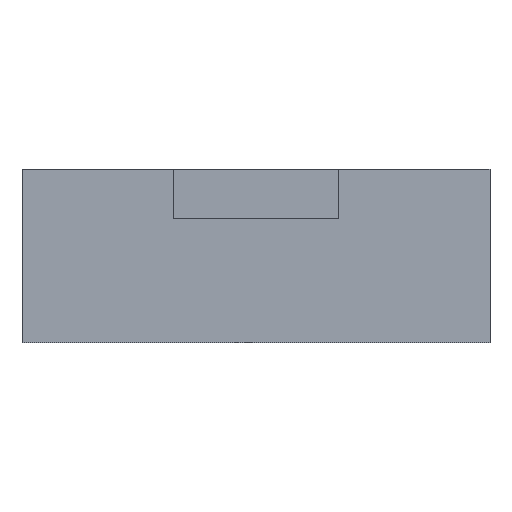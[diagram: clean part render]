
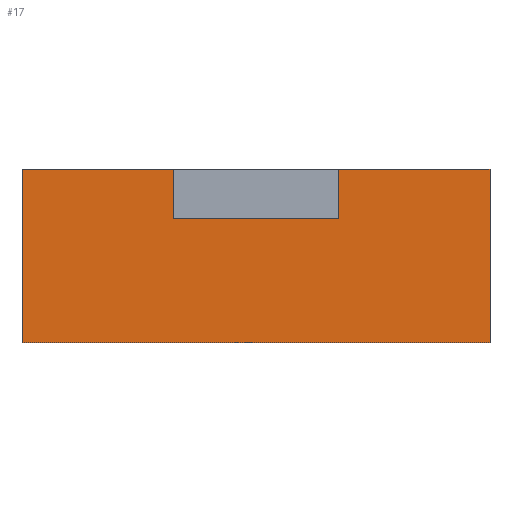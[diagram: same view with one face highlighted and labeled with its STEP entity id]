
A CAD part, left-side view. The second image highlights one B-rep face of the part: STEP entity #17.
In plain terms, the highlighted planar face has unit normal (-1, 0, 0).
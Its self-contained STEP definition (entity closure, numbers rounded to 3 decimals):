
#17 = ADVANCED_FACE('',(#18),#32,.F.);
#18 = FACE_BOUND('',#19,.F.);
#19 = EDGE_LOOP('',(#20,#55,#83,#111,#139,#162,#190,#218));
#20 = ORIENTED_EDGE('',*,*,#21,.F.);
#21 = EDGE_CURVE('',#22,#24,#26,.T.);
#22 = VERTEX_POINT('',#23);
#23 = CARTESIAN_POINT('',(-10.8,-44.5,9.55));
#24 = VERTEX_POINT('',#25);
#25 = CARTESIAN_POINT('',(-10.8,-39.,9.55));
#26 = SURFACE_CURVE('',#27,(#31,#43),.PCURVE_S1.);
#27 = LINE('',#28,#29);
#28 = CARTESIAN_POINT('',(-10.8,-44.5,9.55));
#29 = VECTOR('',#30,1.);
#30 = DIRECTION('',(0.,1.,0.));
#31 = PCURVE('',#32,#37);
#32 = PLANE('',#33);
#33 = AXIS2_PLACEMENT_3D('',#34,#35,#36);
#34 = CARTESIAN_POINT('',(-10.8,-44.5,3.26));
#35 = DIRECTION('',(1.,0.,0.));
#36 = DIRECTION('',(0.,0.,1.));
#37 = DEFINITIONAL_REPRESENTATION('',(#38),#42);
#38 = LINE('',#39,#40);
#39 = CARTESIAN_POINT('',(6.29,0.));
#40 = VECTOR('',#41,1.);
#41 = DIRECTION('',(0.,-1.));
#42 = ( GEOMETRIC_REPRESENTATION_CONTEXT(2) 
PARAMETRIC_REPRESENTATION_CONTEXT() REPRESENTATION_CONTEXT('2D SPACE',''
  ) );
#43 = PCURVE('',#44,#49);
#44 = PLANE('',#45);
#45 = AXIS2_PLACEMENT_3D('',#46,#47,#48);
#46 = CARTESIAN_POINT('',(-10.8,-44.5,9.55));
#47 = DIRECTION('',(0.,0.,1.));
#48 = DIRECTION('',(1.,0.,0.));
#49 = DEFINITIONAL_REPRESENTATION('',(#50),#54);
#50 = LINE('',#51,#52);
#51 = CARTESIAN_POINT('',(0.,0.));
#52 = VECTOR('',#53,1.);
#53 = DIRECTION('',(0.,1.));
#54 = ( GEOMETRIC_REPRESENTATION_CONTEXT(2) 
PARAMETRIC_REPRESENTATION_CONTEXT() REPRESENTATION_CONTEXT('2D SPACE',''
  ) );
#55 = ORIENTED_EDGE('',*,*,#56,.F.);
#56 = EDGE_CURVE('',#57,#22,#59,.T.);
#57 = VERTEX_POINT('',#58);
#58 = CARTESIAN_POINT('',(-10.8,-44.5,3.26));
#59 = SURFACE_CURVE('',#60,(#64,#71),.PCURVE_S1.);
#60 = LINE('',#61,#62);
#61 = CARTESIAN_POINT('',(-10.8,-44.5,3.26));
#62 = VECTOR('',#63,1.);
#63 = DIRECTION('',(0.,0.,1.));
#64 = PCURVE('',#32,#65);
#65 = DEFINITIONAL_REPRESENTATION('',(#66),#70);
#66 = LINE('',#67,#68);
#67 = CARTESIAN_POINT('',(0.,0.));
#68 = VECTOR('',#69,1.);
#69 = DIRECTION('',(1.,0.));
#70 = ( GEOMETRIC_REPRESENTATION_CONTEXT(2) 
PARAMETRIC_REPRESENTATION_CONTEXT() REPRESENTATION_CONTEXT('2D SPACE',''
  ) );
#71 = PCURVE('',#72,#77);
#72 = PLANE('',#73);
#73 = AXIS2_PLACEMENT_3D('',#74,#75,#76);
#74 = CARTESIAN_POINT('',(-10.8,-44.5,3.26));
#75 = DIRECTION('',(0.,1.,0.));
#76 = DIRECTION('',(0.,0.,1.));
#77 = DEFINITIONAL_REPRESENTATION('',(#78),#82);
#78 = LINE('',#79,#80);
#79 = CARTESIAN_POINT('',(0.,0.));
#80 = VECTOR('',#81,1.);
#81 = DIRECTION('',(1.,0.));
#82 = ( GEOMETRIC_REPRESENTATION_CONTEXT(2) 
PARAMETRIC_REPRESENTATION_CONTEXT() REPRESENTATION_CONTEXT('2D SPACE',''
  ) );
#83 = ORIENTED_EDGE('',*,*,#84,.T.);
#84 = EDGE_CURVE('',#57,#85,#87,.T.);
#85 = VERTEX_POINT('',#86);
#86 = CARTESIAN_POINT('',(-10.8,-27.5,3.26));
#87 = SURFACE_CURVE('',#88,(#92,#99),.PCURVE_S1.);
#88 = LINE('',#89,#90);
#89 = CARTESIAN_POINT('',(-10.8,-44.5,3.26));
#90 = VECTOR('',#91,1.);
#91 = DIRECTION('',(0.,1.,0.));
#92 = PCURVE('',#32,#93);
#93 = DEFINITIONAL_REPRESENTATION('',(#94),#98);
#94 = LINE('',#95,#96);
#95 = CARTESIAN_POINT('',(0.,0.));
#96 = VECTOR('',#97,1.);
#97 = DIRECTION('',(0.,-1.));
#98 = ( GEOMETRIC_REPRESENTATION_CONTEXT(2) 
PARAMETRIC_REPRESENTATION_CONTEXT() REPRESENTATION_CONTEXT('2D SPACE',''
  ) );
#99 = PCURVE('',#100,#105);
#100 = PLANE('',#101);
#101 = AXIS2_PLACEMENT_3D('',#102,#103,#104);
#102 = CARTESIAN_POINT('',(-10.8,-44.5,3.26));
#103 = DIRECTION('',(0.,0.,1.));
#104 = DIRECTION('',(1.,0.,0.));
#105 = DEFINITIONAL_REPRESENTATION('',(#106),#110);
#106 = LINE('',#107,#108);
#107 = CARTESIAN_POINT('',(0.,0.));
#108 = VECTOR('',#109,1.);
#109 = DIRECTION('',(0.,1.));
#110 = ( GEOMETRIC_REPRESENTATION_CONTEXT(2) 
PARAMETRIC_REPRESENTATION_CONTEXT() REPRESENTATION_CONTEXT('2D SPACE',''
  ) );
#111 = ORIENTED_EDGE('',*,*,#112,.T.);
#112 = EDGE_CURVE('',#85,#113,#115,.T.);
#113 = VERTEX_POINT('',#114);
#114 = CARTESIAN_POINT('',(-10.8,-27.5,9.55));
#115 = SURFACE_CURVE('',#116,(#120,#127),.PCURVE_S1.);
#116 = LINE('',#117,#118);
#117 = CARTESIAN_POINT('',(-10.8,-27.5,3.26));
#118 = VECTOR('',#119,1.);
#119 = DIRECTION('',(0.,0.,1.));
#120 = PCURVE('',#32,#121);
#121 = DEFINITIONAL_REPRESENTATION('',(#122),#126);
#122 = LINE('',#123,#124);
#123 = CARTESIAN_POINT('',(0.,-17.));
#124 = VECTOR('',#125,1.);
#125 = DIRECTION('',(1.,0.));
#126 = ( GEOMETRIC_REPRESENTATION_CONTEXT(2) 
PARAMETRIC_REPRESENTATION_CONTEXT() REPRESENTATION_CONTEXT('2D SPACE',''
  ) );
#127 = PCURVE('',#128,#133);
#128 = PLANE('',#129);
#129 = AXIS2_PLACEMENT_3D('',#130,#131,#132);
#130 = CARTESIAN_POINT('',(-10.8,-27.5,3.26));
#131 = DIRECTION('',(0.,1.,0.));
#132 = DIRECTION('',(0.,0.,1.));
#133 = DEFINITIONAL_REPRESENTATION('',(#134),#138);
#134 = LINE('',#135,#136);
#135 = CARTESIAN_POINT('',(0.,0.));
#136 = VECTOR('',#137,1.);
#137 = DIRECTION('',(1.,0.));
#138 = ( GEOMETRIC_REPRESENTATION_CONTEXT(2) 
PARAMETRIC_REPRESENTATION_CONTEXT() REPRESENTATION_CONTEXT('2D SPACE',''
  ) );
#139 = ORIENTED_EDGE('',*,*,#140,.F.);
#140 = EDGE_CURVE('',#141,#113,#143,.T.);
#141 = VERTEX_POINT('',#142);
#142 = CARTESIAN_POINT('',(-10.8,-33.,9.55));
#143 = SURFACE_CURVE('',#144,(#148,#155),.PCURVE_S1.);
#144 = LINE('',#145,#146);
#145 = CARTESIAN_POINT('',(-10.8,-44.5,9.55));
#146 = VECTOR('',#147,1.);
#147 = DIRECTION('',(0.,1.,0.));
#148 = PCURVE('',#32,#149);
#149 = DEFINITIONAL_REPRESENTATION('',(#150),#154);
#150 = LINE('',#151,#152);
#151 = CARTESIAN_POINT('',(6.29,0.));
#152 = VECTOR('',#153,1.);
#153 = DIRECTION('',(0.,-1.));
#154 = ( GEOMETRIC_REPRESENTATION_CONTEXT(2) 
PARAMETRIC_REPRESENTATION_CONTEXT() REPRESENTATION_CONTEXT('2D SPACE',''
  ) );
#155 = PCURVE('',#44,#156);
#156 = DEFINITIONAL_REPRESENTATION('',(#157),#161);
#157 = LINE('',#158,#159);
#158 = CARTESIAN_POINT('',(0.,0.));
#159 = VECTOR('',#160,1.);
#160 = DIRECTION('',(0.,1.));
#161 = ( GEOMETRIC_REPRESENTATION_CONTEXT(2) 
PARAMETRIC_REPRESENTATION_CONTEXT() REPRESENTATION_CONTEXT('2D SPACE',''
  ) );
#162 = ORIENTED_EDGE('',*,*,#163,.F.);
#163 = EDGE_CURVE('',#164,#141,#166,.T.);
#164 = VERTEX_POINT('',#165);
#165 = CARTESIAN_POINT('',(-10.8,-33.,7.76));
#166 = SURFACE_CURVE('',#167,(#171,#178),.PCURVE_S1.);
#167 = LINE('',#168,#169);
#168 = CARTESIAN_POINT('',(-10.8,-33.,5.51));
#169 = VECTOR('',#170,1.);
#170 = DIRECTION('',(0.,0.,1.));
#171 = PCURVE('',#32,#172);
#172 = DEFINITIONAL_REPRESENTATION('',(#173),#177);
#173 = LINE('',#174,#175);
#174 = CARTESIAN_POINT('',(2.25,-11.5));
#175 = VECTOR('',#176,1.);
#176 = DIRECTION('',(1.,0.));
#177 = ( GEOMETRIC_REPRESENTATION_CONTEXT(2) 
PARAMETRIC_REPRESENTATION_CONTEXT() REPRESENTATION_CONTEXT('2D SPACE',''
  ) );
#178 = PCURVE('',#179,#184);
#179 = PLANE('',#180);
#180 = AXIS2_PLACEMENT_3D('',#181,#182,#183);
#181 = CARTESIAN_POINT('',(-26.,-33.,7.76));
#182 = DIRECTION('',(0.,1.,0.));
#183 = DIRECTION('',(0.,0.,1.));
#184 = DEFINITIONAL_REPRESENTATION('',(#185),#189);
#185 = LINE('',#186,#187);
#186 = CARTESIAN_POINT('',(-2.25,15.2));
#187 = VECTOR('',#188,1.);
#188 = DIRECTION('',(1.,0.));
#189 = ( GEOMETRIC_REPRESENTATION_CONTEXT(2) 
PARAMETRIC_REPRESENTATION_CONTEXT() REPRESENTATION_CONTEXT('2D SPACE',''
  ) );
#190 = ORIENTED_EDGE('',*,*,#191,.T.);
#191 = EDGE_CURVE('',#164,#192,#194,.T.);
#192 = VERTEX_POINT('',#193);
#193 = CARTESIAN_POINT('',(-10.8,-39.,7.76));
#194 = SURFACE_CURVE('',#195,(#199,#206),.PCURVE_S1.);
#195 = LINE('',#196,#197);
#196 = CARTESIAN_POINT('',(-10.8,-41.75,7.76));
#197 = VECTOR('',#198,1.);
#198 = DIRECTION('',(0.,-1.,0.));
#199 = PCURVE('',#32,#200);
#200 = DEFINITIONAL_REPRESENTATION('',(#201),#205);
#201 = LINE('',#202,#203);
#202 = CARTESIAN_POINT('',(4.5,-2.75));
#203 = VECTOR('',#204,1.);
#204 = DIRECTION('',(0.,1.));
#205 = ( GEOMETRIC_REPRESENTATION_CONTEXT(2) 
PARAMETRIC_REPRESENTATION_CONTEXT() REPRESENTATION_CONTEXT('2D SPACE',''
  ) );
#206 = PCURVE('',#207,#212);
#207 = PLANE('',#208);
#208 = AXIS2_PLACEMENT_3D('',#209,#210,#211);
#209 = CARTESIAN_POINT('',(-26.,-39.,7.76));
#210 = DIRECTION('',(0.,0.,1.));
#211 = DIRECTION('',(1.,0.,0.));
#212 = DEFINITIONAL_REPRESENTATION('',(#213),#217);
#213 = LINE('',#214,#215);
#214 = CARTESIAN_POINT('',(15.2,-2.75));
#215 = VECTOR('',#216,1.);
#216 = DIRECTION('',(0.,-1.));
#217 = ( GEOMETRIC_REPRESENTATION_CONTEXT(2) 
PARAMETRIC_REPRESENTATION_CONTEXT() REPRESENTATION_CONTEXT('2D SPACE',''
  ) );
#218 = ORIENTED_EDGE('',*,*,#219,.T.);
#219 = EDGE_CURVE('',#192,#24,#220,.T.);
#220 = SURFACE_CURVE('',#221,(#225,#232),.PCURVE_S1.);
#221 = LINE('',#222,#223);
#222 = CARTESIAN_POINT('',(-10.8,-39.,5.51));
#223 = VECTOR('',#224,1.);
#224 = DIRECTION('',(0.,0.,1.));
#225 = PCURVE('',#32,#226);
#226 = DEFINITIONAL_REPRESENTATION('',(#227),#231);
#227 = LINE('',#228,#229);
#228 = CARTESIAN_POINT('',(2.25,-5.5));
#229 = VECTOR('',#230,1.);
#230 = DIRECTION('',(1.,0.));
#231 = ( GEOMETRIC_REPRESENTATION_CONTEXT(2) 
PARAMETRIC_REPRESENTATION_CONTEXT() REPRESENTATION_CONTEXT('2D SPACE',''
  ) );
#232 = PCURVE('',#233,#238);
#233 = PLANE('',#234);
#234 = AXIS2_PLACEMENT_3D('',#235,#236,#237);
#235 = CARTESIAN_POINT('',(-26.,-39.,7.76));
#236 = DIRECTION('',(0.,1.,0.));
#237 = DIRECTION('',(0.,0.,1.));
#238 = DEFINITIONAL_REPRESENTATION('',(#239),#243);
#239 = LINE('',#240,#241);
#240 = CARTESIAN_POINT('',(-2.25,15.2));
#241 = VECTOR('',#242,1.);
#242 = DIRECTION('',(1.,0.));
#243 = ( GEOMETRIC_REPRESENTATION_CONTEXT(2) 
PARAMETRIC_REPRESENTATION_CONTEXT() REPRESENTATION_CONTEXT('2D SPACE',''
  ) );
